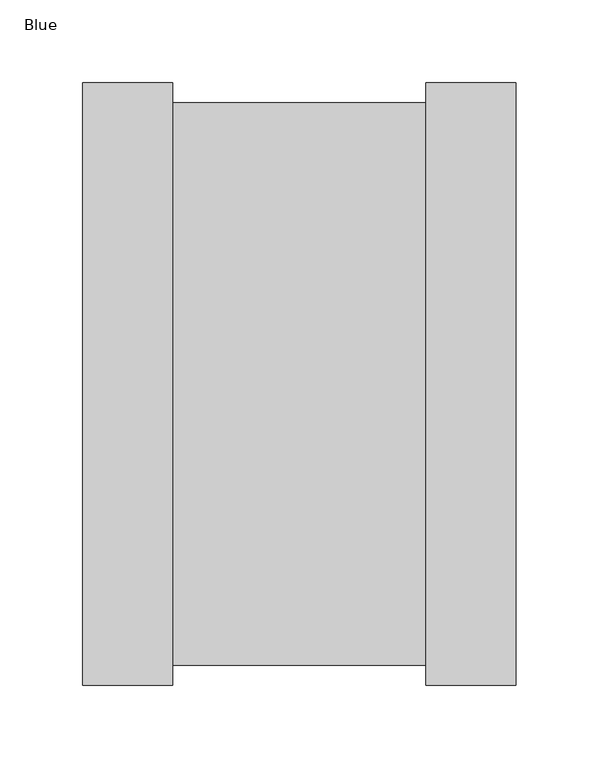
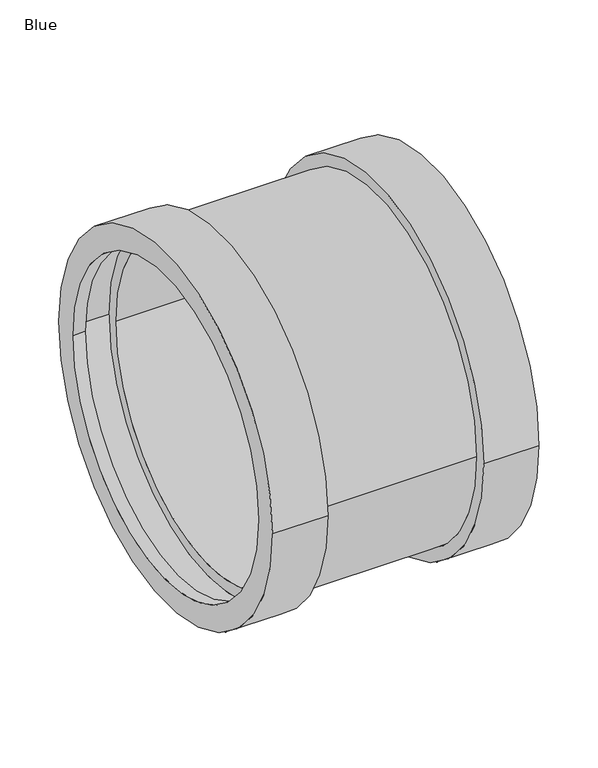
"""IFC4 building model written with IfcOpenShell, lengths in millimetres: pipe fitting geometry, AWADUKT PP Union USM : Blue."""

from ifc_helpers import new_model, si_unit, frame, origin, place, context, project, spatial, polyline, circle_curve, source, transform, mapped, element, save
from ifc_brep_helpers import plane_surface, cylinder_surface, revolved_surface, advanced_brep


def blue_b5fe305e(model_context):
    return source(origin(), model_context, "Body", "AdvancedBrep", [
        advanced_brep(
        [(-88.525, 157.5, 0.0), (-88.525, -157.5, 0.0), (88.525, -157.5, 0.0), (88.525, 157.5, 0.0), (-118.65, 169.55, 0.0), (-118.65, -169.55, 0.0), (-88.525, -169.55, 0.0), (-88.525, 169.55, 0.0), (-130.7, 157.5, 0.0), (-130.7, -157.5, 0.0), (-118.65, -157.5, 0.0), (-118.65, 157.5, 0.0), (-76.475, 181.6, 0.0), (-76.475, -181.6, 0.0), (-130.7, -181.6, 0.0), (-130.7, 181.6, 0.0), (76.475, 169.55, 0.0), (76.475, -169.55, 0.0), (-76.475, -169.55, 0.0), (-76.475, 169.55, 0.0), (130.7, 181.6, 0.0), (130.7, -181.6, 0.0), (76.475, -181.6, 0.0), (76.475, 181.6, 0.0), (118.65, 157.5, 0.0), (118.65, -157.5, 0.0), (130.7, -157.5, 0.0), (130.7, 157.5, 0.0), (88.525, 169.55, 0.0), (88.525, -169.55, 0.0), (118.65, -169.55, 0.0), (118.65, 169.55, 0.0)],
        [
            (0, 1, circle_curve(frame((-88.525, 0.0, 0.0), z_axis=(-1.0, 0.0, 0.0), x_axis=(0.0, -1.0, 0.0)), 157.5)),
            (1, 2),
            (2, 3, circle_curve(frame((88.525, 0.0, 0.0), z_axis=(1.0, 0.0, 0.0), x_axis=(0.0, -1.0, 0.0)), 157.5)),
            (3, 0),
            (4, 5, circle_curve(frame((-118.65, 0.0, 0.0), z_axis=(-1.0, 0.0, 0.0), x_axis=(0.0, -1.0, 0.0)), 169.55)),
            (5, 6),
            (6, 7, circle_curve(frame((-88.525, 0.0, 0.0), z_axis=(1.0, 0.0, 0.0), x_axis=(0.0, -1.0, 0.0)), 169.55)),
            (7, 4),
            (8, 9, circle_curve(frame((-130.7, 0.0, 0.0), z_axis=(-1.0, 0.0, 0.0), x_axis=(0.0, -1.0, 0.0)), 157.5)),
            (9, 10),
            (10, 11, circle_curve(frame((-118.65, 0.0, 0.0), z_axis=(1.0, 0.0, 0.0), x_axis=(0.0, -1.0, 0.0)), 157.5)),
            (11, 8),
            (12, 13, circle_curve(frame((-76.475, 0.0, 0.0), z_axis=(-1.0, 0.0, 0.0), x_axis=(0.0, -1.0, 0.0)), 181.6)),
            (13, 14),
            (14, 15, circle_curve(frame((-130.7, 0.0, 0.0), z_axis=(1.0, 0.0, 0.0), x_axis=(0.0, -1.0, 0.0)), 181.6)),
            (15, 12),
            (16, 17, circle_curve(frame((76.475, 0.0, 0.0), z_axis=(-1.0, 0.0, 0.0), x_axis=(0.0, -1.0, 0.0)), 169.55)),
            (17, 18),
            (18, 19, circle_curve(frame((-76.475, 0.0, 0.0), z_axis=(1.0, 0.0, 0.0), x_axis=(0.0, -1.0, 0.0)), 169.55)),
            (19, 16),
            (20, 21, circle_curve(frame((130.7, 0.0, 0.0), z_axis=(-1.0, 0.0, 0.0), x_axis=(0.0, -1.0, 0.0)), 181.6)),
            (21, 22),
            (22, 23, circle_curve(frame((76.475, 0.0, 0.0), z_axis=(1.0, 0.0, 0.0), x_axis=(0.0, -1.0, 0.0)), 181.6)),
            (23, 20),
            (24, 25, circle_curve(frame((118.65, 0.0, 0.0), z_axis=(-1.0, 0.0, 0.0), x_axis=(0.0, -1.0, 0.0)), 157.5)),
            (25, 26),
            (26, 27, circle_curve(frame((130.7, 0.0, 0.0), z_axis=(1.0, 0.0, 0.0), x_axis=(0.0, -1.0, 0.0)), 157.5)),
            (27, 24),
            (28, 29, circle_curve(frame((88.525, 0.0, 0.0), z_axis=(-1.0, 0.0, 0.0), x_axis=(0.0, -1.0, 0.0)), 169.55)),
            (29, 30),
            (30, 31, circle_curve(frame((118.65, 0.0, 0.0), z_axis=(1.0, 0.0, 0.0), x_axis=(0.0, -1.0, 0.0)), 169.55)),
            (31, 28),
            (1, 0, circle_curve(frame((-88.525, 0.0, 0.0), z_axis=(-1.0, 0.0, 0.0), x_axis=(0.0, 1.0, 0.0)), 157.5)),
            (3, 2, circle_curve(frame((88.525, 0.0, 0.0), z_axis=(1.0, 0.0, 0.0), x_axis=(0.0, 1.0, 0.0)), 157.5)),
            (6, 7, circle_curve(frame((-88.525, 0.0, 0.0), z_axis=(-1.0, 0.0, 0.0), x_axis=(0.0, 1.0, 0.0)), 169.55)),
            (5, 4, circle_curve(frame((-118.65, 0.0, 0.0), z_axis=(-1.0, 0.0, 0.0), x_axis=(0.0, 1.0, 0.0)), 169.55)),
            (10, 11, circle_curve(frame((-118.65, 0.0, 0.0), z_axis=(-1.0, 0.0, 0.0), x_axis=(0.0, 1.0, 0.0)), 157.5)),
            (9, 8, circle_curve(frame((-130.7, 0.0, 0.0), z_axis=(-1.0, 0.0, 0.0), x_axis=(0.0, 1.0, 0.0)), 157.5)),
            (14, 15, circle_curve(frame((-130.7, 0.0, 0.0), z_axis=(-1.0, 0.0, 0.0), x_axis=(0.0, 1.0, 0.0)), 181.6)),
            (13, 12, circle_curve(frame((-76.475, 0.0, 0.0), z_axis=(-1.0, 0.0, 0.0), x_axis=(0.0, 1.0, 0.0)), 181.6)),
            (18, 19, circle_curve(frame((-76.475, 0.0, 0.0), z_axis=(-1.0, 0.0, 0.0), x_axis=(0.0, 1.0, 0.0)), 169.55)),
            (17, 16, circle_curve(frame((76.475, 0.0, 0.0), z_axis=(-1.0, 0.0, 0.0), x_axis=(0.0, 1.0, 0.0)), 169.55)),
            (22, 23, circle_curve(frame((76.475, 0.0, 0.0), z_axis=(-1.0, 0.0, 0.0), x_axis=(0.0, 1.0, 0.0)), 181.6)),
            (21, 20, circle_curve(frame((130.7, 0.0, 0.0), z_axis=(-1.0, 0.0, 0.0), x_axis=(0.0, 1.0, 0.0)), 181.6)),
            (26, 27, circle_curve(frame((130.7, 0.0, 0.0), z_axis=(-1.0, 0.0, 0.0), x_axis=(0.0, 1.0, 0.0)), 157.5)),
            (25, 24, circle_curve(frame((118.65, 0.0, 0.0), z_axis=(-1.0, 0.0, 0.0), x_axis=(0.0, 1.0, 0.0)), 157.5)),
            (30, 31, circle_curve(frame((118.65, 0.0, 0.0), z_axis=(-1.0, 0.0, 0.0), x_axis=(0.0, 1.0, 0.0)), 169.55)),
            (29, 28, circle_curve(frame((88.525, 0.0, 0.0), z_axis=(-1.0, 0.0, 0.0), x_axis=(0.0, 1.0, 0.0)), 169.55)),
        ],
        [
            revolved_surface(polyline([(88.525, -157.5, 0.0), (-88.525, -157.5, 0.0)]), (0.0, 0.0, 0.0), (1.0, 0.0, 0.0)),
            revolved_surface(polyline([(-88.525, -169.55, 0.0), (-118.65, -169.55, 0.0)]), (0.0, 0.0, 0.0), (1.0, 0.0, 0.0)),
            revolved_surface(polyline([(-118.65, -157.5, 0.0), (-130.7, -157.5, 0.0)]), (0.0, 0.0, 0.0), (1.0, 0.0, 0.0)),
            cylinder_surface(frame((0.0, 0.0, 0.0), z_axis=(1.0, 0.0, 0.0), x_axis=(0.0, -1.0, 0.0)), 181.6),
            cylinder_surface(frame((0.0, 0.0, 0.0), z_axis=(1.0, 0.0, 0.0), x_axis=(0.0, -1.0, 0.0)), 169.55),
            revolved_surface(polyline([(130.7, -157.5, 0.0), (118.65, -157.5, 0.0)]), (0.0, 0.0, 0.0), (1.0, 0.0, 0.0)),
            revolved_surface(polyline([(118.65, -169.55, 0.0), (88.525, -169.55, 0.0)]), (0.0, 0.0, 0.0), (1.0, 0.0, 0.0)),
            revolved_surface(polyline([(88.525, 157.5, 0.0), (-88.525, 157.5, 0.0)]), (0.0, 0.0, 0.0), (1.0, 0.0, 0.0)),
            plane_surface(frame((-88.525, 0.0, 0.0), z_axis=(-1.0, 0.0, 0.0), x_axis=(0.0, 1.0, 0.0))),
            revolved_surface(polyline([(-88.525, 169.55, 0.0), (-118.65, 169.55, 0.0)]), (0.0, 0.0, 0.0), (1.0, 0.0, 0.0)),
            plane_surface(frame((-118.65, 0.0, 0.0), z_axis=(1.0, 0.0, 0.0), x_axis=(0.0, 1.0, 0.0))),
            revolved_surface(polyline([(-118.65, 157.5, 0.0), (-130.7, 157.5, 0.0)]), (0.0, 0.0, 0.0), (1.0, 0.0, 0.0)),
            plane_surface(frame((-130.7, 0.0, 0.0), z_axis=(-1.0, 0.0, 0.0), x_axis=(0.0, 1.0, 0.0))),
            cylinder_surface(frame((0.0, 0.0, 0.0), z_axis=(1.0, 0.0, 0.0), x_axis=(0.0, 1.0, 0.0)), 181.6),
            plane_surface(frame((-76.475, 0.0, 0.0), z_axis=(1.0, 0.0, 0.0), x_axis=(0.0, 1.0, 0.0))),
            cylinder_surface(frame((0.0, 0.0, 0.0), z_axis=(1.0, 0.0, 0.0), x_axis=(0.0, 1.0, 0.0)), 169.55),
            plane_surface(frame((76.475, 0.0, 0.0), z_axis=(-1.0, 0.0, 0.0), x_axis=(0.0, 1.0, 0.0))),
            plane_surface(frame((130.7, 0.0, 0.0), z_axis=(1.0, 0.0, 0.0), x_axis=(0.0, 1.0, 0.0))),
            revolved_surface(polyline([(130.7, 157.5, 0.0), (118.65, 157.5, 0.0)]), (0.0, 0.0, 0.0), (1.0, 0.0, 0.0)),
            plane_surface(frame((118.65, 0.0, 0.0), z_axis=(-1.0, 0.0, 0.0), x_axis=(0.0, 1.0, 0.0))),
            revolved_surface(polyline([(118.65, 169.55, 0.0), (88.525, 169.55, 0.0)]), (0.0, 0.0, 0.0), (1.0, 0.0, 0.0)),
            plane_surface(frame((88.525, 0.0, 0.0), z_axis=(1.0, 0.0, 0.0), x_axis=(0.0, 1.0, 0.0))),
        ],
        [
            (0, [[1, 2, 3, 4]]),
            (1, [[5, 6, 7, 8]]),
            (2, [[9, 10, 11, 12]]),
            (3, [[13, 14, 15, 16]]),
            (4, [[17, 18, 19, 20]]),
            (3, [[21, 22, 23, 24]]),
            (5, [[25, 26, 27, 28]]),
            (6, [[29, 30, 31, 32]]),
            (7, [[33, -4, 34, -2]]),
            (8, [[35, -7], [-33, -1]]),
            (9, [[36, -8, -35, -6]]),
            (10, [[-36, -5], [37, -11]]),
            (11, [[38, -12, -37, -10]]),
            (12, [[39, -15], [-38, -9]]),
            (13, [[40, -16, -39, -14]]),
            (14, [[-40, -13], [41, -19]]),
            (15, [[42, -20, -41, -18]]),
            (16, [[43, -23], [-42, -17]]),
            (13, [[44, -24, -43, -22]]),
            (17, [[-44, -21], [45, -27]]),
            (18, [[46, -28, -45, -26]]),
            (19, [[47, -31], [-46, -25]]),
            (20, [[48, -32, -47, -30]]),
            (21, [[-48, -29], [-34, -3]]),
        ],
    ),
    ])


if __name__ == "__main__":
    model = new_model("IFC4")
    model_context = context("Model", 3, world=origin())
    ifc_project = project(units=[si_unit("LENGTHUNIT", "METRE", prefix="MILLI")], contexts=[model_context])
    site = spatial("IfcSite", under=ifc_project)
    building = spatial("IfcBuilding", under=site)
    placement = place(None, origin())
    blue_shape = blue_b5fe305e(model_context)
    element("IfcPipeFitting", 1, ObjectType="AWADUKT PP Union USM : Blue", at=placement, inside=building, context=model_context, shape_type="MappedRepresentation", body=[
        mapped(blue_shape, transform((0.0, 0.0, 0.0), x_axis=(1.0, 0.0, 0.0), y_axis=(0.0, 1.0, 0.0), z_axis=(0.0, 0.0, 1.0))),
    ])
    save(model, "model.ifc")
